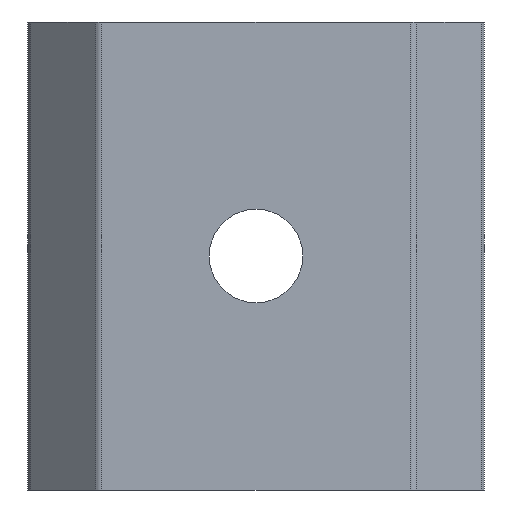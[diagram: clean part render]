
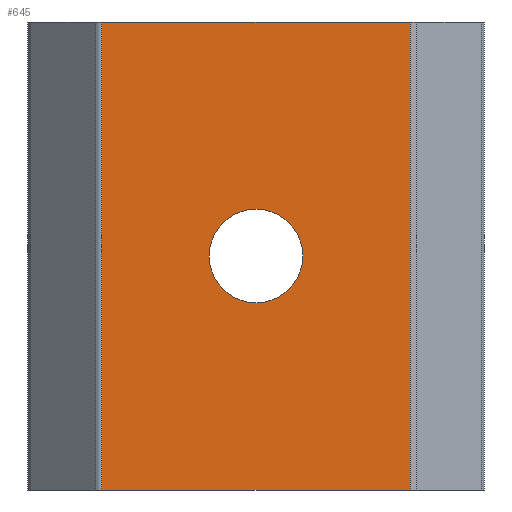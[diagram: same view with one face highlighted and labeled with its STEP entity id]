
A CAD part, front view. The second image highlights one B-rep face of the part: STEP entity #645.
In plain terms, the highlighted planar face has unit normal (0, -1, 0).
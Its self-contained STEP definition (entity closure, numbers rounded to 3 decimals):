
#31 = CARTESIAN_POINT ( 'NONE',  ( 6.584, 0., 0. ) ) ;
#51 = CARTESIAN_POINT ( 'NONE',  ( -6.584, 0., 20. ) ) ;
#55 = DIRECTION ( 'NONE',  ( 0., 0., -1. ) ) ;
#65 = CARTESIAN_POINT ( 'NONE',  ( 0., 0., 10. ) ) ;
#67 = DIRECTION ( 'NONE',  ( 0., -1., 0. ) ) ;
#71 = CARTESIAN_POINT ( 'NONE',  ( 0., 0., 12. ) ) ;
#76 = CARTESIAN_POINT ( 'NONE',  ( -6.584, 0., 0. ) ) ;
#81 = CARTESIAN_POINT ( 'NONE',  ( 6.584, 0., 20. ) ) ;
#82 = CARTESIAN_POINT ( 'NONE',  ( 0., 0., 8. ) ) ;
#96 = PLANE ( 'NONE',  #518 ) ;
#97 = CARTESIAN_POINT ( 'NONE',  ( -6.75, 0., 20. ) ) ;
#100 = DIRECTION ( 'NONE',  ( 0., 0., 1. ) ) ;
#101 = DIRECTION ( 'NONE',  ( 0., 1., 0. ) ) ;
#106 = CARTESIAN_POINT ( 'NONE',  ( -6.75, 0., 20. ) ) ;
#107 = DIRECTION ( 'NONE',  ( 1., 0., 0. ) ) ;
#114 = ORIENTED_EDGE ( 'NONE', *, *, #641, .F. ) ;
#124 = ORIENTED_EDGE ( 'NONE', *, *, #652, .T. ) ;
#130 = VERTEX_POINT ( 'NONE', #31 ) ;
#166 = ORIENTED_EDGE ( 'NONE', *, *, #674, .T. ) ;
#169 = ORIENTED_EDGE ( 'NONE', *, *, #722, .T. ) ;
#211 = ORIENTED_EDGE ( 'NONE', *, *, #669, .F. ) ;
#242 = VERTEX_POINT ( 'NONE', #71 ) ;
#259 = EDGE_LOOP ( 'NONE', ( #124, #166, #295, #169 ) ) ;
#278 = VERTEX_POINT ( 'NONE', #51 ) ;
#287 = VERTEX_POINT ( 'NONE', #81 ) ;
#295 = ORIENTED_EDGE ( 'NONE', *, *, #649, .F. ) ;
#299 = VERTEX_POINT ( 'NONE', #76 ) ;
#303 = VERTEX_POINT ( 'NONE', #82 ) ;
#304 = CARTESIAN_POINT ( 'NONE',  ( -6.75, 0., 0. ) ) ;
#305 = DIRECTION ( 'NONE',  ( 1., 0., 0. ) ) ;
#346 = CARTESIAN_POINT ( 'NONE',  ( 0., 0., 10. ) ) ;
#347 = DIRECTION ( 'NONE',  ( 0., -1., 0. ) ) ;
#348 = DIRECTION ( 'NONE',  ( 0., 0., -1. ) ) ;
#359 = CARTESIAN_POINT ( 'NONE',  ( 6.584, 0., 20. ) ) ;
#360 = DIRECTION ( 'NONE',  ( 0., 0., 1. ) ) ;
#477 = CARTESIAN_POINT ( 'NONE',  ( -6.584, 0., 20. ) ) ;
#478 = DIRECTION ( 'NONE',  ( 0., 0., -1. ) ) ;
#518 = AXIS2_PLACEMENT_3D ( 'NONE', #97, #101, #100 ) ;
#524 = AXIS2_PLACEMENT_3D ( 'NONE', #346, #347, #348 ) ;
#526 = VECTOR ( 'NONE', #360, 1000. ) ;
#548 = VECTOR ( 'NONE', #107, 1000. ) ;
#549 = CIRCLE ( 'NONE', #524, 2. ) ;
#553 = VECTOR ( 'NONE', #305, 1000. ) ;
#555 = AXIS2_PLACEMENT_3D ( 'NONE', #65, #67, #55 ) ;
#571 = CIRCLE ( 'NONE', #555, 2. ) ;
#606 = VECTOR ( 'NONE', #478, 1000. ) ;
#641 = EDGE_CURVE ( 'NONE', #242, #303, #571, .T. ) ;
#645 = ADVANCED_FACE ( 'NONE', ( #742, #750 ), #96, .F. ) ;
#649 = EDGE_CURVE ( 'NONE', #278, #287, #811, .T. ) ;
#652 = EDGE_CURVE ( 'NONE', #299, #130, #745, .T. ) ;
#669 = EDGE_CURVE ( 'NONE', #303, #242, #549, .T. ) ;
#674 = EDGE_CURVE ( 'NONE', #130, #287, #744, .T. ) ;
#722 = EDGE_CURVE ( 'NONE', #278, #299, #778, .T. ) ;
#742 = FACE_BOUND ( 'NONE', #772, .T. ) ;
#744 = LINE ( 'NONE', #359, #526 ) ;
#745 = LINE ( 'NONE', #304, #553 ) ;
#750 = FACE_OUTER_BOUND ( 'NONE', #259, .T. ) ;
#772 = EDGE_LOOP ( 'NONE', ( #211, #114 ) ) ;
#778 = LINE ( 'NONE', #477, #606 ) ;
#811 = LINE ( 'NONE', #106, #548 ) ;
